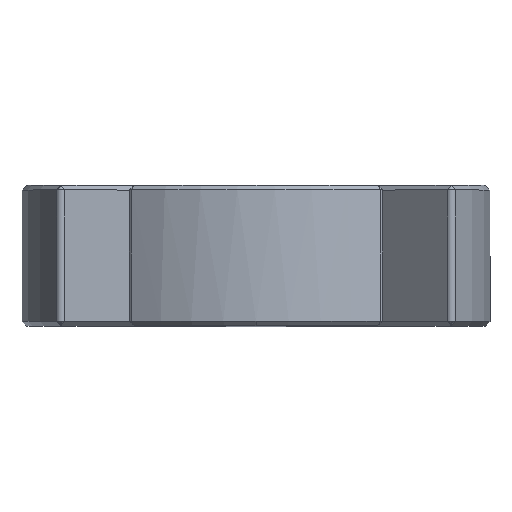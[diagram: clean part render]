
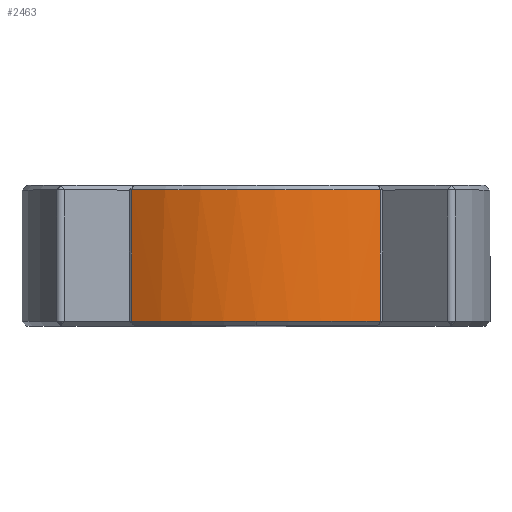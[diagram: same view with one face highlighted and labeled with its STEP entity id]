
A CAD part, top view. The second image highlights one B-rep face of the part: STEP entity #2463.
In plain terms, the highlighted cylindrical face has radius 10 mm (diameter 20 mm), a partial arc.
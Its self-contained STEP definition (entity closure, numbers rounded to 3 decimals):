
#3 = CARTESIAN_POINT ( 'NONE',  ( 5.301, 5.8, 8.479 ) ) ;
#5 = LINE ( 'NONE', #1038, #2551 ) ;
#58 = ORIENTED_EDGE ( 'NONE', *, *, #437, .T. ) ;
#77 = ORIENTED_EDGE ( 'NONE', *, *, #2613, .T. ) ;
#90 = CARTESIAN_POINT ( 'NONE',  ( -5.301, 5.8, 8.479 ) ) ;
#98 = VERTEX_POINT ( 'NONE', #1681 ) ;
#157 = AXIS2_PLACEMENT_3D ( 'NONE', #555, #1517, #789 ) ;
#210 = ORIENTED_EDGE ( 'NONE', *, *, #1297, .T. ) ;
#332 = CARTESIAN_POINT ( 'NONE',  ( 0., 6., 0. ) ) ;
#349 = DIRECTION ( 'NONE',  ( 0., 1., 0. ) ) ;
#396 = DIRECTION ( 'NONE',  ( 0., 1., 0. ) ) ;
#437 = EDGE_CURVE ( 'NONE', #2930, #1323, #544, .T. ) ;
#544 = CIRCLE ( 'NONE', #157, 10. ) ;
#555 = CARTESIAN_POINT ( 'NONE',  ( 0., 5.8, 0. ) ) ;
#648 = CARTESIAN_POINT ( 'NONE',  ( 0., 0.2, 0. ) ) ;
#789 = DIRECTION ( 'NONE',  ( 0., 0., 1. ) ) ;
#817 = FACE_OUTER_BOUND ( 'NONE', #2532, .T. ) ;
#866 = CARTESIAN_POINT ( 'NONE',  ( 5.301, 6., 8.479 ) ) ;
#898 = DIRECTION ( 'NONE',  ( 0., 0., 1. ) ) ;
#1038 = CARTESIAN_POINT ( 'NONE',  ( -5.301, 6., 8.479 ) ) ;
#1122 = CARTESIAN_POINT ( 'NONE',  ( 0., 0.2, 10. ) ) ;
#1267 = AXIS2_PLACEMENT_3D ( 'NONE', #332, #2090, #1310 ) ;
#1297 = EDGE_CURVE ( 'NONE', #1323, #98, #5, .T. ) ;
#1310 = DIRECTION ( 'NONE',  ( 0., 0., -1. ) ) ;
#1323 = VERTEX_POINT ( 'NONE', #90 ) ;
#1367 = AXIS2_PLACEMENT_3D ( 'NONE', #1625, #349, #898 ) ;
#1372 = CIRCLE ( 'NONE', #1963, 10. ) ;
#1424 = EDGE_CURVE ( 'NONE', #2582, #2478, #2170, .T. ) ;
#1517 = DIRECTION ( 'NONE',  ( 0., -1., 0. ) ) ;
#1625 = CARTESIAN_POINT ( 'NONE',  ( 0., 0.2, 0. ) ) ;
#1681 = CARTESIAN_POINT ( 'NONE',  ( -5.301, 0.2, 8.479 ) ) ;
#1812 = ORIENTED_EDGE ( 'NONE', *, *, #3010, .T. ) ;
#1819 = CARTESIAN_POINT ( 'NONE',  ( 5.301, 0.2, 8.479 ) ) ;
#1873 = ORIENTED_EDGE ( 'NONE', *, *, #1424, .T. ) ;
#1963 = AXIS2_PLACEMENT_3D ( 'NONE', #648, #396, #2720 ) ;
#2072 = DIRECTION ( 'NONE',  ( 0., -1., 0. ) ) ;
#2090 = DIRECTION ( 'NONE',  ( 0., -1., 0. ) ) ;
#2168 = LINE ( 'NONE', #866, #2236 ) ;
#2170 = CIRCLE ( 'NONE', #1367, 10. ) ;
#2236 = VECTOR ( 'NONE', #3198, 1000. ) ;
#2463 = ADVANCED_FACE ( 'NONE', ( #817 ), #2879, .T. ) ;
#2478 = VERTEX_POINT ( 'NONE', #1819 ) ;
#2532 = EDGE_LOOP ( 'NONE', ( #210, #1812, #1873, #77, #58 ) ) ;
#2551 = VECTOR ( 'NONE', #2072, 1000. ) ;
#2582 = VERTEX_POINT ( 'NONE', #1122 ) ;
#2613 = EDGE_CURVE ( 'NONE', #2478, #2930, #2168, .T. ) ;
#2720 = DIRECTION ( 'NONE',  ( 0., 0., 1. ) ) ;
#2879 = CYLINDRICAL_SURFACE ( 'NONE', #1267, 10. ) ;
#2930 = VERTEX_POINT ( 'NONE', #3 ) ;
#3010 = EDGE_CURVE ( 'NONE', #98, #2582, #1372, .T. ) ;
#3198 = DIRECTION ( 'NONE',  ( 0., 1., 0. ) ) ;
